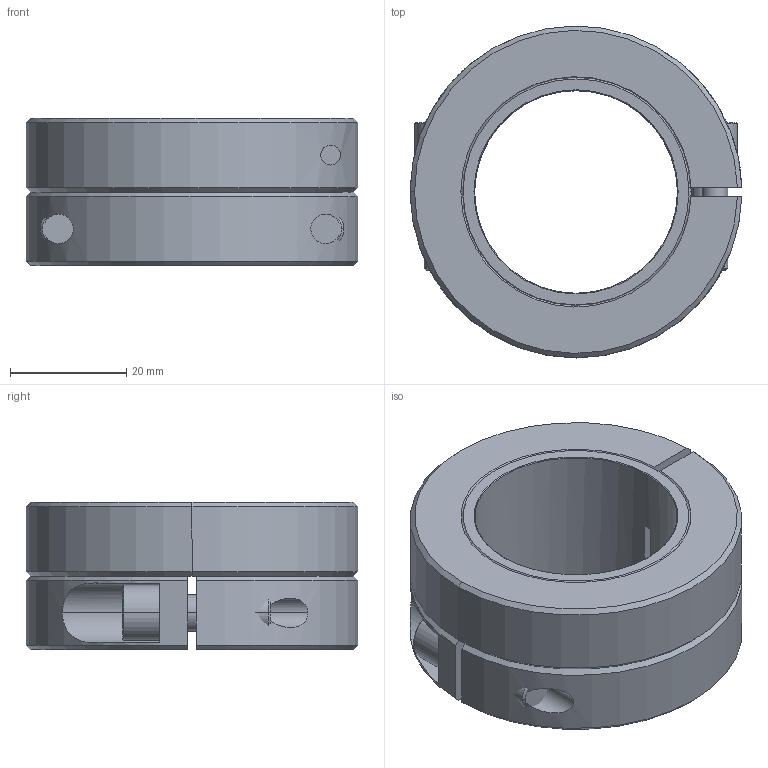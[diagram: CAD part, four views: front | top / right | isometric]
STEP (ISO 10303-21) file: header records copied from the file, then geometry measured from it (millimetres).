
FILE_DESCRIPTION( ( 'STEP File Generated from Kubotek KeyCreator' ), '1' );
FILE_NAME( 'Part1', '2006-05-25T21:52:29', ( 'KeyCreator USER' ), ( 'Kubotek USA, Inc.' ), 'ACIS Interop R13 SP5', 'Kubotek KeyCreator V4.5.0 (0337)', 'KC' );
FILE_SCHEMA( ( 'CONFIG_CONTROL_DESIGN' ) );
Length unit declared in the file: inch
Products named in the file (5): 1; 2; 3; 4; 5
Bounding box: 57.14 x 57.15 x 25.4 mm (x, y, z)
Volume: 39098.4 mm3; surface area: 19794.5 mm2
Topology: 5 solids, 5 shells, 124 faces, 299 edges, 193 vertices
Faces by surface type: plane 54, cylinder 40, cone 30
Entity records: 4134 total; most frequent: CARTESIAN_POINT 907, DIRECTION 658, ORIENTED_EDGE 598, EDGE_CURVE 299, AXIS2_PLACEMENT_3D 242, VERTEX_POINT 193, LINE 174, VECTOR 174
